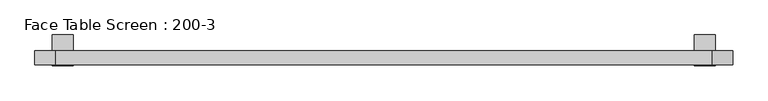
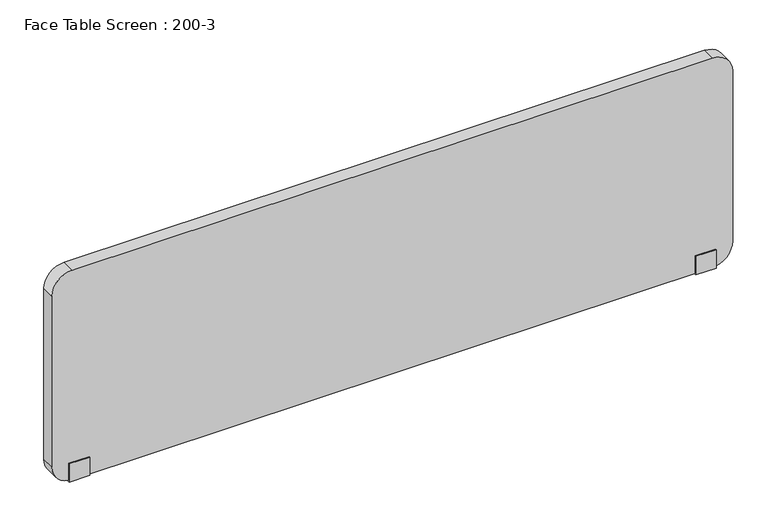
"""IFC4 building model written with IfcOpenShell, lengths in millimetres: furniture geometry, Face Table Screen : 200-3."""

from ifc_helpers import new_model, si_unit, point, frame, frame_2d, origin, place, context, project, spatial, polyline, circle_curve, trimmed, segment, composite_curve, outline, extrude, source, transform, mapped, element, save


def face_table_screen_200_3_ca9181c1(model_context):
    return source(origin(), model_context, "Body", "SweptSolid", [
        extrude(outline(polyline([(-22.9999947, -156.0), (-22.9999997, -99.0433898), (-20.0, -99.0433898), (-20.0, -153.0), (20.0, -153.0), (20.0, -22.0), (65.0, -22.0), (65.0, -25.0433898), (23.0000062, -25.0433898), (22.9999947, -156.0), (-22.9999947, -156.0)])), frame((890.0, 0.0, 0.0), z_axis=(1.0, 0.0, 0.0), x_axis=(0.0, 1.0, 0.0)), (0.0, 0.0, 1.0), 60.0),
        extrude(outline(polyline([(-22.9999947, -156.0), (-22.9999997, -99.0433898), (-20.0, -99.0433898), (-20.0, -153.0), (20.0, -153.0), (20.0, -22.0), (65.0, -22.0), (65.0, -25.0433898), (23.0000062, -25.0433898), (22.9999947, -156.0), (-22.9999947, -156.0)])), frame((-950.0, 0.0, 0.0), z_axis=(1.0, 0.0, 0.0), x_axis=(0.0, 1.0, 0.0)), (0.0, 0.0, 1.0), 60.0),
        extrude(outline(composite_curve([segment(polyline([(497.0, 940.0), (497.0, -940.0)]), True, "CONTINUOUS"), segment(trimmed(circle_curve(frame_2d((437.0, -940.0)), 60.0), [point((497.0, -940.0))], [point((437.0, -1000.0))], False, "CARTESIAN"), True, "CONTINUOUS"), segment(polyline([(437.0, -1000.0), (-93.0, -1000.0)]), True, "CONTINUOUS"), segment(trimmed(circle_curve(frame_2d((-93.0, -940.0)), 60.0), [point((-93.0, -1000.0))], [point((-153.0, -940.0))], False, "CARTESIAN"), True, "CONTINUOUS"), segment(polyline([(-153.0, -940.0), (-153.0, 940.0)]), True, "CONTINUOUS"), segment(trimmed(circle_curve(frame_2d((-93.0, 940.0)), 60.0), [point((-153.0, 940.0))], [point((-93.0, 1000.0))], False, "CARTESIAN"), True, "CONTINUOUS"), segment(polyline([(-93.0, 1000.0), (437.0, 1000.0)]), True, "CONTINUOUS"), segment(trimmed(circle_curve(frame_2d((437.0, 940.0)), 60.0), [point((437.0, 1000.0))], [point((497.0, 940.0))], False, "CARTESIAN"), True, "CONTINUOUS")], self_intersect=False)), frame((0.0, -20.0, 0.0), z_axis=(0.0, 1.0, 0.0), x_axis=(0.0, 0.0, 1.0)), (0.0, 0.0, 1.0), 40.0),
    ])


if __name__ == "__main__":
    model = new_model("IFC4")
    model_context = context("Model", 3, world=origin())
    ifc_project = project(units=[si_unit("LENGTHUNIT", "METRE", prefix="MILLI")], contexts=[model_context])
    site = spatial("IfcSite", under=ifc_project)
    building = spatial("IfcBuilding", under=site)
    placement = place(None, origin())
    face_table_screen_200_3_shape = face_table_screen_200_3_ca9181c1(model_context)
    element("IfcFurniture", 1, ObjectType="Face Table Screen : 200-3", at=placement, inside=building, context=model_context, shape_type="MappedRepresentation", body=[
        mapped(face_table_screen_200_3_shape, transform((0.0, 0.0, 0.0), x_axis=(1.0, 0.0, 0.0), y_axis=(0.0, 1.0, 0.0), z_axis=(0.0, 0.0, 1.0))),
    ])
    save(model, "model.ifc")
